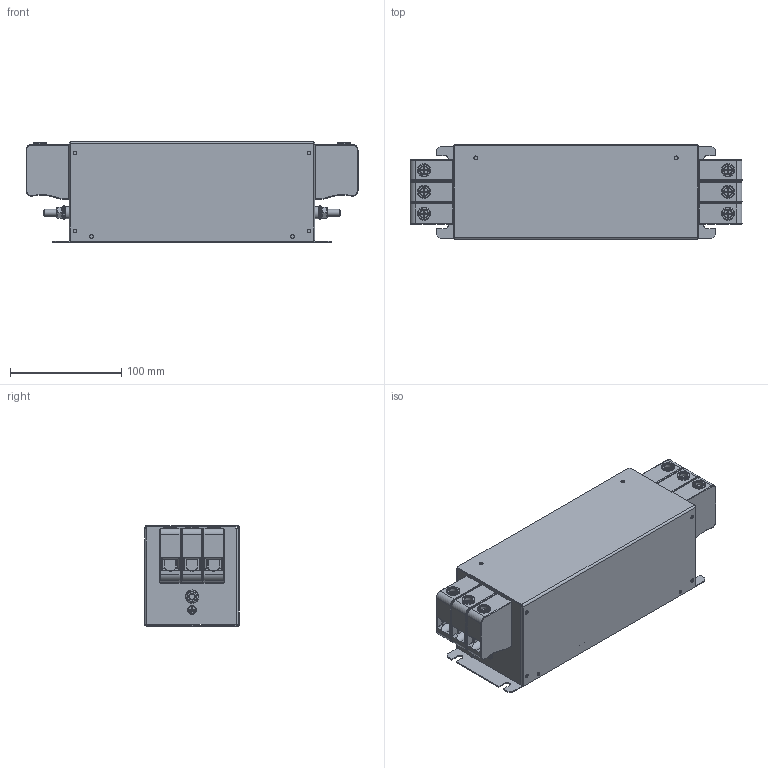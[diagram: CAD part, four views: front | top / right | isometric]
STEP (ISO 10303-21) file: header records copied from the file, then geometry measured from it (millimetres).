
FILE_DESCRIPTION((''),'2;1');
FILE_NAME('L:\INVENTOR_Projektedaten\HousingDesign\FN3258-55-34.stp','2013-09-19T09:31:50',('Samuel.Meier'),(''),'Autodesk Inventor 2013','Autodesk Inventor 2013','');
FILE_SCHEMA(('AUTOMOTIVE_DESIGN { 1 0 10303 214 1 1 1 1 }'));
Length unit declared in the file: millimetre
Products named in the file (1): FN3258-55-34
Bounding box: 298 x 85 x 90 mm (x, y, z)
Volume: 341740.6 mm3; surface area: 236031 mm2
Topology: 1 solids, 5 shells, 1598 faces, 3896 edges, 2270 vertices
Faces by surface type: plane 710, cylinder 612, sphere 120, bspline 70, torus 66, cone 20
Full cylindrical faces by diameter (mm): 3.3 x8, 3.5 x8, 6 x6, 6.4 x4, 7 x8, 8 x4, 8.88 x2, 11.05 x2, 11.6 x6, 12 x2
Entity records: 48608 total; most frequent: CARTESIAN_POINT 9967, DIRECTION 8096, ORIENTED_EDGE 7412, EDGE_CURVE 3706, AXIS2_PLACEMENT_3D 3005, VERTEX_POINT 2258, VECTOR 2086, LINE 2086
